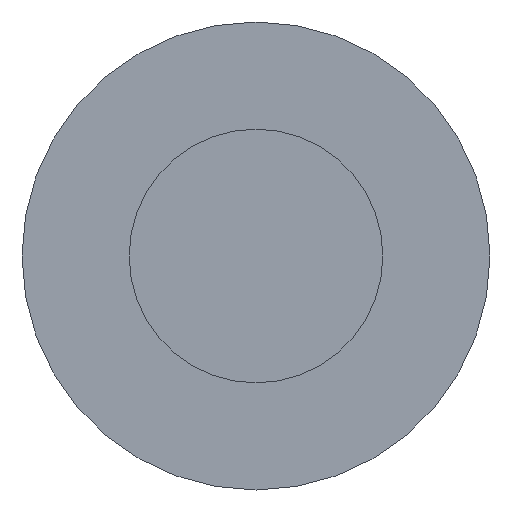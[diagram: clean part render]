
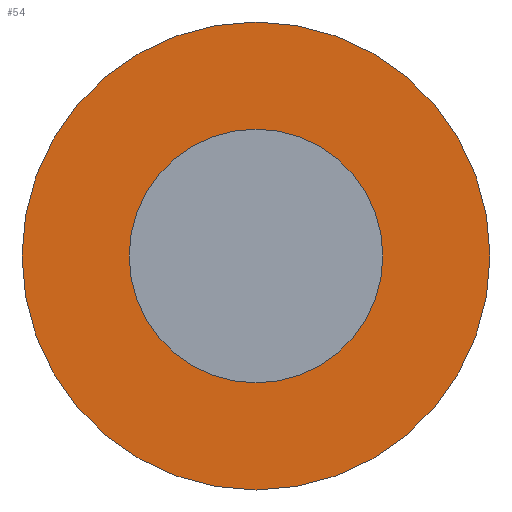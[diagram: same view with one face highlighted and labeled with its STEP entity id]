
A CAD part, front view. The second image highlights one B-rep face of the part: STEP entity #54.
In plain terms, the highlighted planar face has unit normal (0, -1, 0).
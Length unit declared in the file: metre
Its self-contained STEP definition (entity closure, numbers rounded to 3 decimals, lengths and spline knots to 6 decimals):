
#15=ORIENTED_EDGE('',*,*,#23,.T.);
#16=ORIENTED_EDGE('',*,*,#24,.T.);
#23=EDGE_CURVE('',#27,#27,#31,.F.);
#24=EDGE_CURVE('',#28,#28,#32,.T.);
#27=VERTEX_POINT('',#106);
#28=VERTEX_POINT('',#108);
#31=CIRCLE('',#74,0.007473);
#32=CIRCLE('',#75,0.00405);
#35=EDGE_LOOP('',(#15));
#36=EDGE_LOOP('',(#16));
#43=FACE_BOUND('',#35,.T.);
#44=FACE_BOUND('',#36,.T.);
#51=PLANE('',#73);
#54=ADVANCED_FACE('',(#43,#44),#51,.F.);
#73=AXIS2_PLACEMENT_3D('',#104,#86,#87);
#74=AXIS2_PLACEMENT_3D('',#105,#88,#89);
#75=AXIS2_PLACEMENT_3D('',#107,#90,#91);
#86=DIRECTION('',(0.,1.,0.));
#87=DIRECTION('',(1.,0.,0.));
#88=DIRECTION('',(0.,1.,0.));
#89=DIRECTION('',(1.,0.,0.));
#90=DIRECTION('',(0.,1.,0.));
#91=DIRECTION('',(1.,0.,0.));
#104=CARTESIAN_POINT('',(0.128049,0.0197,0.078205));
#105=CARTESIAN_POINT('',(0.128049,0.0197,0.078205));
#106=CARTESIAN_POINT('',(0.135522,0.0197,0.078205));
#107=CARTESIAN_POINT('',(0.128049,0.0197,0.078205));
#108=CARTESIAN_POINT('',(0.1321,0.0197,0.078205));
